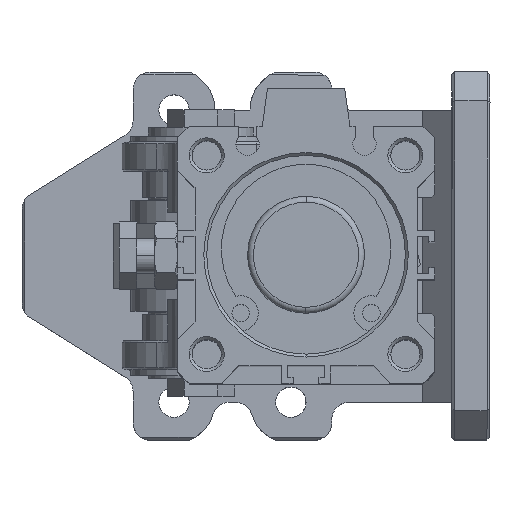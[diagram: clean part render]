
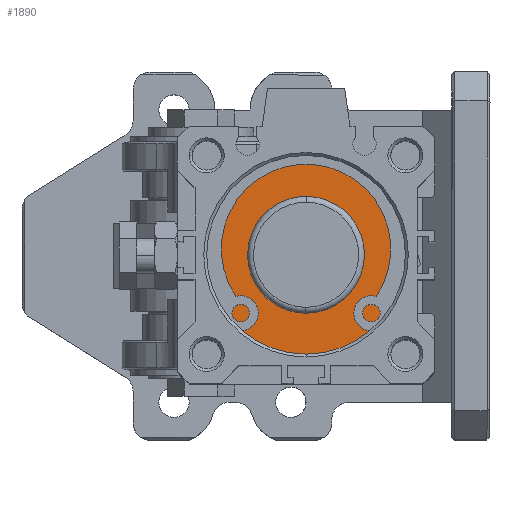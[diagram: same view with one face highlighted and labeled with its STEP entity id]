
A CAD part, top view. The second image highlights one B-rep face of the part: STEP entity #1890.
In plain terms, the highlighted planar face has unit normal (0, 0, 1).
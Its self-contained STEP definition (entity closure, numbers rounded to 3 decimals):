
#1890=ADVANCED_FACE('',(#7065,#7066),#3009,.F.);
#3009=PLANE('',#19707);
#7065=FACE_BOUND('',#7450,.T.);
#7066=FACE_BOUND('',#7451,.T.);
#7450=EDGE_LOOP('',(#9188,#9189));
#7451=EDGE_LOOP('',(#9190,#9191));
#9188=ORIENTED_EDGE('',*,*,#16219,.F.);
#9189=ORIENTED_EDGE('',*,*,#16220,.T.);
#9190=ORIENTED_EDGE('',*,*,#16221,.F.);
#9191=ORIENTED_EDGE('',*,*,#16222,.T.);
#14368=VERTEX_POINT('',#27764);
#14369=VERTEX_POINT('',#27765);
#14370=VERTEX_POINT('',#27768);
#14371=VERTEX_POINT('',#27769);
#16219=EDGE_CURVE('',#14368,#14369,#18756,.T.);
#16220=EDGE_CURVE('',#14368,#14369,#18757,.T.);
#16221=EDGE_CURVE('',#14370,#14371,#18758,.T.);
#16222=EDGE_CURVE('',#14370,#14371,#18759,.T.);
#18756=CIRCLE('',#19703,10.);
#18757=CIRCLE('',#19704,10.);
#18758=CIRCLE('',#19705,18.);
#18759=CIRCLE('',#19706,18.);
#19703=AXIS2_PLACEMENT_3D('',#27763,#22062,#22063);
#19704=AXIS2_PLACEMENT_3D('',#27766,#22064,#22065);
#19705=AXIS2_PLACEMENT_3D('',#27767,#22066,#22067);
#19706=AXIS2_PLACEMENT_3D('',#27770,#22068,#22069);
#19707=AXIS2_PLACEMENT_3D('',#27771,#22070,#22071);
#22062=DIRECTION('',(0.,0.,1.));
#22063=DIRECTION('',(0.011,1.,0.));
#22064=DIRECTION('',(0.,0.,-1.));
#22065=DIRECTION('',(0.011,1.,0.));
#22066=DIRECTION('',(0.,0.,-1.));
#22067=DIRECTION('',(0.,1.,0.));
#22068=DIRECTION('',(0.,0.,1.));
#22069=DIRECTION('',(0.,1.,0.));
#22070=DIRECTION('',(0.,0.,-1.));
#22071=DIRECTION('',(0.,1.,0.));
#27763=CARTESIAN_POINT('',(0.,0.,
2.2));
#27764=CARTESIAN_POINT('',(0.113,9.999,2.2));
#27765=CARTESIAN_POINT('',(-0.113,-9.999,2.2));
#27766=CARTESIAN_POINT('',(0.,0.,
2.2));
#27767=CARTESIAN_POINT('',(0.,0.,2.2));
#27768=CARTESIAN_POINT('',(-0.001,18.,2.2));
#27769=CARTESIAN_POINT('',(0.001,-18.,2.2));
#27770=CARTESIAN_POINT('',(0.,0.,2.2));
#27771=CARTESIAN_POINT('',(0.,0.,2.2));
